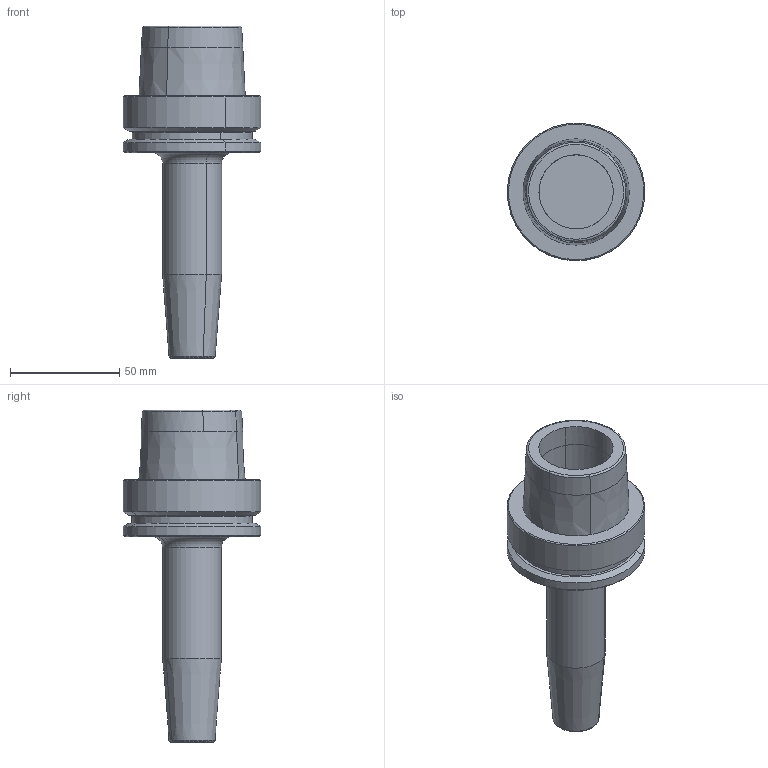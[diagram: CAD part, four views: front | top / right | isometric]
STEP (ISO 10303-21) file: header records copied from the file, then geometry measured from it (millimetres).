
FILE_DESCRIPTION(('CATIA V5 STEP','CAx-IF Rec.Pracs.--- Model Styling and Organization---1.2---2011-12-15'),'2;1');
FILE_NAME('I:\isr\design\admin8\users\raheeb_a\4504012 L.stp','2018-01-31T06:34:16+00:00',('none'),('none'),'CATIA Version 5 Release 21 SP 5 (IN-10)','CATIA V5 STEP AP214','none');
FILE_SCHEMA(('AUTOMOTIVE_DESIGN { 1 0 10303 214 1 1 1 1 }'));
Length unit declared in the file: millimetre
Products named in the file (1): HSK A63 SRKIN6X120
Bounding box: 62.88 x 62.99 x 152 mm (x, y, z)
Volume: 143721 mm3; surface area: 28968.8 mm2
Topology: 1 solids, 1 shells, 57 faces, 129 edges, 80 vertices
Faces by surface type: cylinder 20, cone 15, revolution 10, plane 8, torus 4
Entity records: 1631 total; most frequent: CARTESIAN_POINT 448, ORIENTED_EDGE 258, DIRECTION 178, EDGE_CURVE 129, AXIS2_PLACEMENT_3D 107, VERTEX_POINT 80, CIRCLE 79, EDGE_LOOP 63
